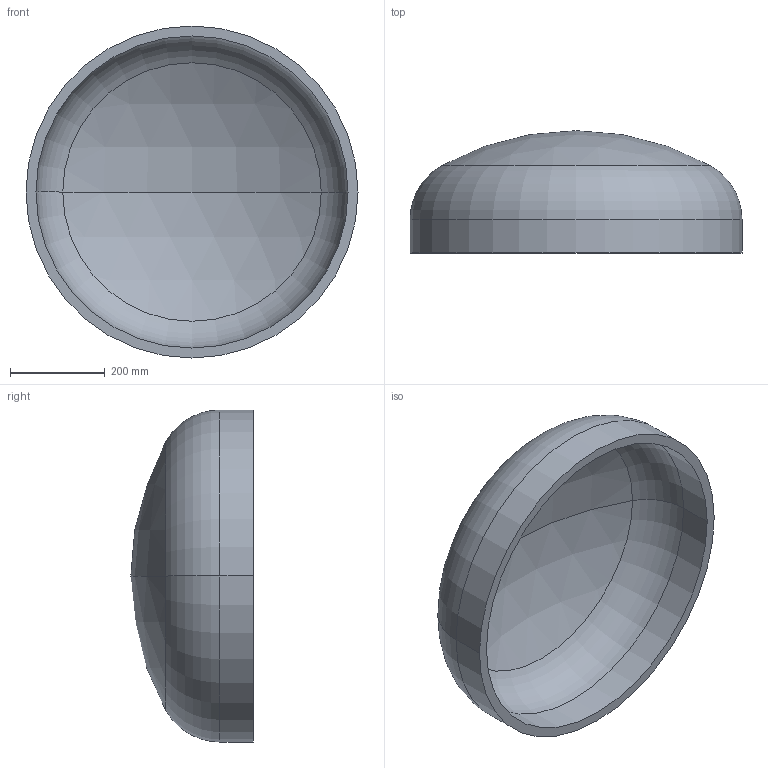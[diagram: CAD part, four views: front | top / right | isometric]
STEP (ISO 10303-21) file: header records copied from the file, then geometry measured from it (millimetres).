
FILE_DESCRIPTION (( 'STEP AP203' ), '1' );
FILE_NAME ('DIN 28013 Korbbogenform_-_Boden DIN 28013 - 700 x 70 - I - s=21.step', '2016-07-01T08:05:22', ( '' ), ( '' ), 'SwSTEP 2.0', 'SolidWorks 2013', '' );
FILE_SCHEMA (( 'CONFIG_CONTROL_DESIGN' ));
Length unit declared in the file: millimetre
Products named in the file (1): DIN 28013 Korbbogenform_-_Boden DIN 28013 - 700 x 70 - I - s=21
Bounding box: 700 x 257.89 x 700 mm (x, y, z)
Volume: 13942747.8 mm3; surface area: 1373600 mm2
Topology: 1 solids, 1 shells, 13 faces, 24 edges, 14 vertices
Faces by surface type: torus 4, cylinder 4, sphere 4, plane 1
Entity records: 407 total; most frequent: DIRECTION 72, CARTESIAN_POINT 52, ORIENTED_EDGE 48, AXIS2_PLACEMENT_3D 34, EDGE_CURVE 24, CIRCLE 20, VERTEX_POINT 14, EDGE_LOOP 14
